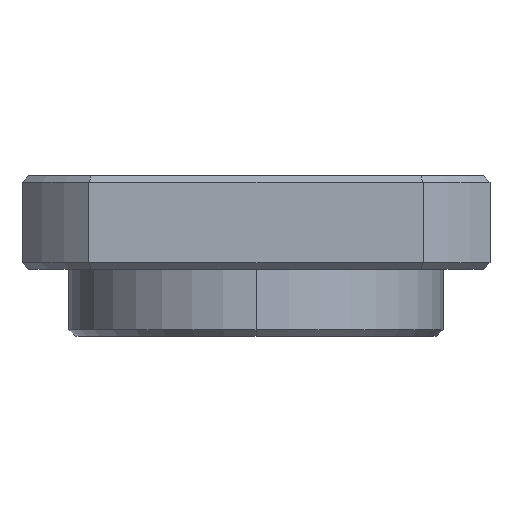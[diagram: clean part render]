
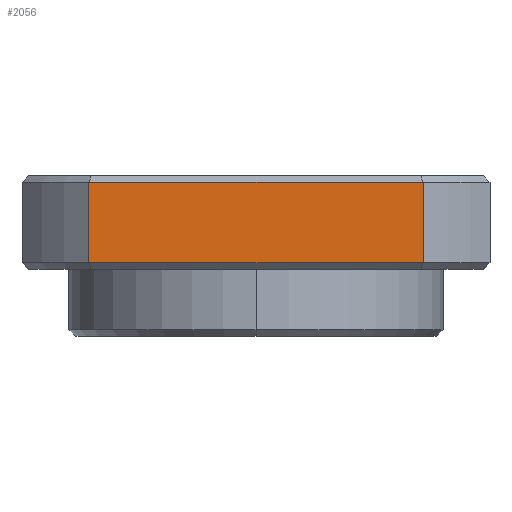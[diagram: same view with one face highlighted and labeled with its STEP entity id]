
A CAD part, left-side view. The second image highlights one B-rep face of the part: STEP entity #2056.
In plain terms, the highlighted planar face has unit normal (-1, 0, 0).
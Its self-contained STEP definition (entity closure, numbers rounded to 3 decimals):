
#820 = CARTESIAN_POINT ( 'NONE',  ( -17.5, -12.49, -0.5 ) ) ;
#842 = CARTESIAN_POINT ( 'NONE',  ( -17.5, 17.5, -6.5 ) ) ;
#1029 = ORIENTED_EDGE ( 'NONE', *, *, #3960, .T. ) ;
#1262 = LINE ( 'NONE', #842, #1274 ) ;
#1274 = VECTOR ( 'NONE', #5664, 1000. ) ;
#1400 = EDGE_CURVE ( 'NONE', #1757, #2765, #1262, .T. ) ;
#1632 = EDGE_CURVE ( 'NONE', #2765, #3162, #3587, .T. ) ;
#1645 = ORIENTED_EDGE ( 'NONE', *, *, #5648, .T. ) ;
#1757 = VERTEX_POINT ( 'NONE', #2851 ) ;
#1940 = DIRECTION ( 'NONE',  ( 0., 1., 0. ) ) ;
#1980 = CARTESIAN_POINT ( 'NONE',  ( -17.5, 17.5, -0.5 ) ) ;
#2028 = EDGE_LOOP ( 'NONE', ( #1029, #5995, #3020, #1645 ) ) ;
#2056 = ADVANCED_FACE ( 'NONE', ( #2230 ), #5737, .T. ) ;
#2153 = CARTESIAN_POINT ( 'NONE',  ( -17.5, -12.49, -6.5 ) ) ;
#2230 = FACE_OUTER_BOUND ( 'NONE', #2028, .T. ) ;
#2248 = CARTESIAN_POINT ( 'NONE',  ( -17.5, 12.49, -0.5 ) ) ;
#2765 = VERTEX_POINT ( 'NONE', #2153 ) ;
#2771 = VERTEX_POINT ( 'NONE', #2248 ) ;
#2851 = CARTESIAN_POINT ( 'NONE',  ( -17.5, 12.49, -6.5 ) ) ;
#2919 = DIRECTION ( 'NONE',  ( 0., -1., 0. ) ) ;
#2982 = DIRECTION ( 'NONE',  ( 0., 0., -1. ) ) ;
#2988 = CARTESIAN_POINT ( 'NONE',  ( -17.5, 12.49, -34.404 ) ) ;
#3020 = ORIENTED_EDGE ( 'NONE', *, *, #1632, .T. ) ;
#3162 = VERTEX_POINT ( 'NONE', #820 ) ;
#3504 = VECTOR ( 'NONE', #3937, 1000. ) ;
#3520 = AXIS2_PLACEMENT_3D ( 'NONE', #5744, #5806, #2919 ) ;
#3579 = VECTOR ( 'NONE', #2982, 1000. ) ;
#3587 = LINE ( 'NONE', #3913, #3504 ) ;
#3705 = VECTOR ( 'NONE', #1940, 1000. ) ;
#3913 = CARTESIAN_POINT ( 'NONE',  ( -17.5, -12.49, -34.404 ) ) ;
#3937 = DIRECTION ( 'NONE',  ( 0., 0., 1. ) ) ;
#3960 = EDGE_CURVE ( 'NONE', #2771, #1757, #5325, .T. ) ;
#5325 = LINE ( 'NONE', #2988, #3579 ) ;
#5549 = LINE ( 'NONE', #1980, #3705 ) ;
#5648 = EDGE_CURVE ( 'NONE', #3162, #2771, #5549, .T. ) ;
#5664 = DIRECTION ( 'NONE',  ( 0., -1., 0. ) ) ;
#5737 = PLANE ( 'NONE',  #3520 ) ;
#5744 = CARTESIAN_POINT ( 'NONE',  ( -17.5, 17.5, -12.001 ) ) ;
#5806 = DIRECTION ( 'NONE',  ( -1., 0., 0. ) ) ;
#5995 = ORIENTED_EDGE ( 'NONE', *, *, #1400, .T. ) ;
